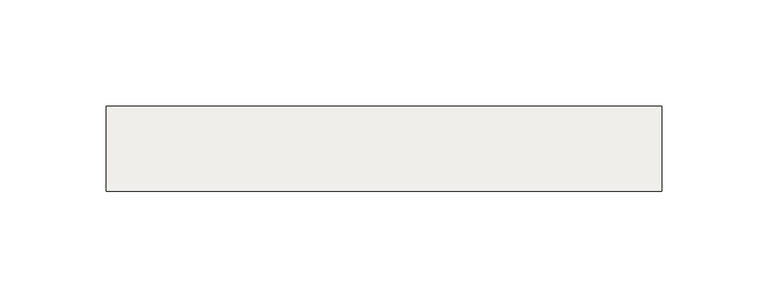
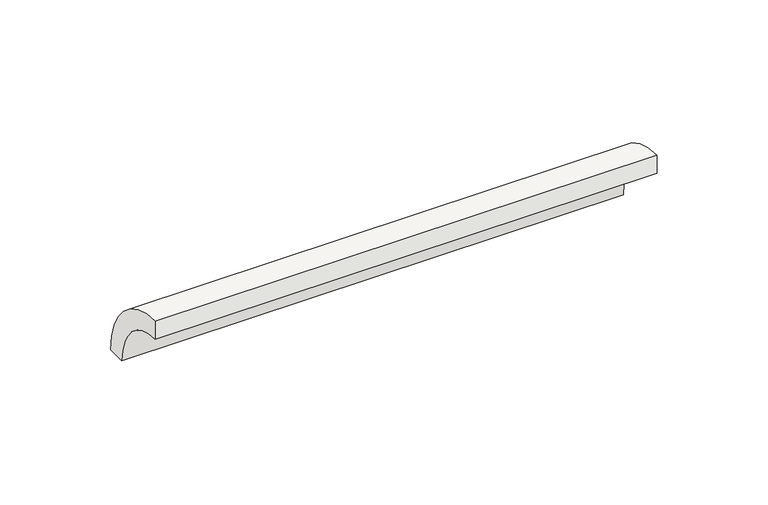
"""IFC4 building model written with IfcOpenShell, lengths in millimetres: slab geometry, ROSA GRES_138 : Pieza 138_Aqua_Plomo_Anti-Slip."""

from ifc_helpers import new_model, si_unit, point, frame, frame_2d, origin, origin_2d, place, context, project, spatial, polyline, circle_curve, trimmed, segment, composite_curve, outline, extrude, source, transform, mapped, element, save


def slab_78a21326(model_context):
    return source(origin(), model_context, "Body", "SweptSolid", [
        extrude(outline(composite_curve([segment(trimmed(circle_curve(origin_2d(), 40.0), [point((0.0, 40.0))], [point((40.0, 0.0))], False, "CARTESIAN"), True, "CONTINUOUS"), segment(polyline([(40.0, 0.0), (30.0265886, 0.0)]), True, "CONTINUOUS"), segment(trimmed(circle_curve(frame_2d((0.0044453, 0.0044453)), 30.0221435), [point((30.0265886, 0.0))], [point((0.0, 30.0265886))], True, "CARTESIAN"), True, "CONTINUOUS"), segment(polyline([(0.0, 30.0265886), (0.0, 40.0)]), True, "CONTINUOUS")], self_intersect=False)), frame((0.0, 0.0, 0.0), z_axis=(1.0, 0.0, 0.0), x_axis=(0.0, 1.0, 0.0)), (0.0, 0.0, 1.0), 261.1332107),
    ])


if __name__ == "__main__":
    model = new_model("IFC4")
    model_context = context("Model", 3, world=origin())
    ifc_project = project(units=[si_unit("LENGTHUNIT", "METRE", prefix="MILLI")], contexts=[model_context])
    site = spatial("IfcSite", under=ifc_project)
    building = spatial("IfcBuilding", under=site)
    placement = place(None, origin())
    slab_shape = slab_78a21326(model_context)
    element("IfcSlab", 1, ObjectType="ROSA GRES_138 : Pieza 138_Aqua_Plomo_Anti-Slip", at=placement, inside=building, context=model_context, shape_type="MappedRepresentation", body=[
        mapped(slab_shape, transform((0.0, 0.0, 0.0), x_axis=(1.0, 0.0, 0.0), y_axis=(0.0, 1.0, 0.0), z_axis=(0.0, 0.0, 1.0))),
    ])
    save(model, "model.ifc")
